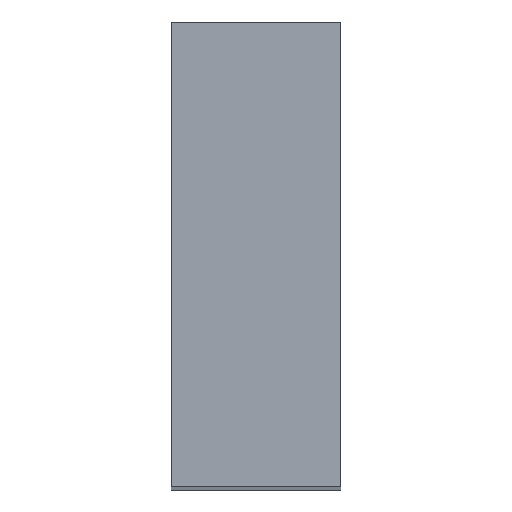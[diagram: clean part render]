
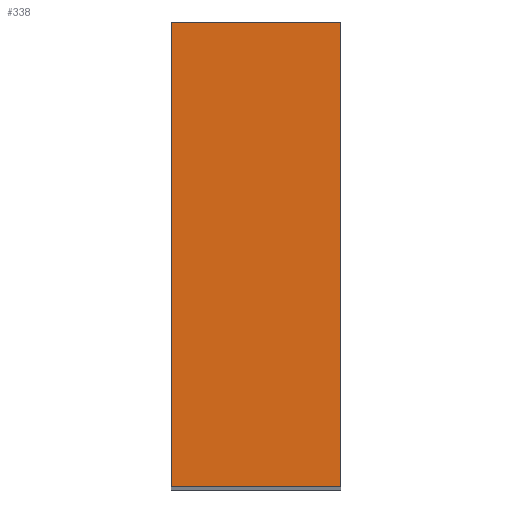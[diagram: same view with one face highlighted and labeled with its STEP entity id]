
A CAD part, top view. The second image highlights one B-rep face of the part: STEP entity #338.
In plain terms, the highlighted planar face has unit normal (0, 0, 1).
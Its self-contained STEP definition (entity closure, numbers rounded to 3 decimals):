
#24 = VERTEX_POINT('',#25);
#25 = CARTESIAN_POINT('',(-342.544,-153.369,142.));
#32 = PLANE('',#33);
#33 = AXIS2_PLACEMENT_3D('',#34,#35,#36);
#34 = CARTESIAN_POINT('',(-342.544,-153.369,54.));
#35 = DIRECTION('',(1.,0.,-0.));
#36 = DIRECTION('',(0.,0.,1.));
#44 = PLANE('',#45);
#45 = AXIS2_PLACEMENT_3D('',#46,#47,#48);
#46 = CARTESIAN_POINT('',(-342.544,-153.369,54.));
#47 = DIRECTION('',(-0.,1.,0.));
#48 = DIRECTION('',(0.,0.,1.));
#85 = VERTEX_POINT('',#86);
#86 = CARTESIAN_POINT('',(-342.544,-131.369,142.));
#100 = PLANE('',#101);
#101 = AXIS2_PLACEMENT_3D('',#102,#103,#104);
#102 = CARTESIAN_POINT('',(-342.544,-131.369,54.));
#103 = DIRECTION('',(-0.,1.,0.));
#104 = DIRECTION('',(0.,0.,1.));
#112 = EDGE_CURVE('',#24,#85,#113,.T.);
#113 = SURFACE_CURVE('',#114,(#118,#125),.PCURVE_S1.);
#114 = LINE('',#115,#116);
#115 = CARTESIAN_POINT('',(-342.544,-153.369,142.));
#116 = VECTOR('',#117,1.);
#117 = DIRECTION('',(-0.,1.,0.));
#118 = PCURVE('',#32,#119);
#119 = DEFINITIONAL_REPRESENTATION('',(#120),#124);
#120 = LINE('',#121,#122);
#121 = CARTESIAN_POINT('',(88.,0.));
#122 = VECTOR('',#123,1.);
#123 = DIRECTION('',(0.,-1.));
#124 = ( GEOMETRIC_REPRESENTATION_CONTEXT(2) 
PARAMETRIC_REPRESENTATION_CONTEXT() REPRESENTATION_CONTEXT('2D SPACE',''
  ) );
#125 = PCURVE('',#126,#131);
#126 = PLANE('',#127);
#127 = AXIS2_PLACEMENT_3D('',#128,#129,#130);
#128 = CARTESIAN_POINT('',(-342.544,-153.369,142.));
#129 = DIRECTION('',(0.,0.,1.));
#130 = DIRECTION('',(1.,0.,-0.));
#131 = DEFINITIONAL_REPRESENTATION('',(#132),#136);
#132 = LINE('',#133,#134);
#133 = CARTESIAN_POINT('',(0.,0.));
#134 = VECTOR('',#135,1.);
#135 = DIRECTION('',(0.,1.));
#136 = ( GEOMETRIC_REPRESENTATION_CONTEXT(2) 
PARAMETRIC_REPRESENTATION_CONTEXT() REPRESENTATION_CONTEXT('2D SPACE',''
  ) );
#144 = VERTEX_POINT('',#145);
#145 = CARTESIAN_POINT('',(-334.544,-153.369,142.));
#152 = PLANE('',#153);
#153 = AXIS2_PLACEMENT_3D('',#154,#155,#156);
#154 = CARTESIAN_POINT('',(-334.544,-153.369,54.));
#155 = DIRECTION('',(1.,0.,-0.));
#156 = DIRECTION('',(0.,0.,1.));
#195 = VERTEX_POINT('',#196);
#196 = CARTESIAN_POINT('',(-334.544,-131.369,142.));
#217 = EDGE_CURVE('',#144,#195,#218,.T.);
#218 = SURFACE_CURVE('',#219,(#223,#230),.PCURVE_S1.);
#219 = LINE('',#220,#221);
#220 = CARTESIAN_POINT('',(-334.544,-153.369,142.));
#221 = VECTOR('',#222,1.);
#222 = DIRECTION('',(-0.,1.,0.));
#223 = PCURVE('',#152,#224);
#224 = DEFINITIONAL_REPRESENTATION('',(#225),#229);
#225 = LINE('',#226,#227);
#226 = CARTESIAN_POINT('',(88.,0.));
#227 = VECTOR('',#228,1.);
#228 = DIRECTION('',(0.,-1.));
#229 = ( GEOMETRIC_REPRESENTATION_CONTEXT(2) 
PARAMETRIC_REPRESENTATION_CONTEXT() REPRESENTATION_CONTEXT('2D SPACE',''
  ) );
#230 = PCURVE('',#126,#231);
#231 = DEFINITIONAL_REPRESENTATION('',(#232),#236);
#232 = LINE('',#233,#234);
#233 = CARTESIAN_POINT('',(8.,0.));
#234 = VECTOR('',#235,1.);
#235 = DIRECTION('',(0.,1.));
#236 = ( GEOMETRIC_REPRESENTATION_CONTEXT(2) 
PARAMETRIC_REPRESENTATION_CONTEXT() REPRESENTATION_CONTEXT('2D SPACE',''
  ) );
#263 = EDGE_CURVE('',#24,#144,#264,.T.);
#264 = SURFACE_CURVE('',#265,(#269,#276),.PCURVE_S1.);
#265 = LINE('',#266,#267);
#266 = CARTESIAN_POINT('',(-342.544,-153.369,142.));
#267 = VECTOR('',#268,1.);
#268 = DIRECTION('',(1.,0.,-0.));
#269 = PCURVE('',#44,#270);
#270 = DEFINITIONAL_REPRESENTATION('',(#271),#275);
#271 = LINE('',#272,#273);
#272 = CARTESIAN_POINT('',(88.,0.));
#273 = VECTOR('',#274,1.);
#274 = DIRECTION('',(0.,1.));
#275 = ( GEOMETRIC_REPRESENTATION_CONTEXT(2) 
PARAMETRIC_REPRESENTATION_CONTEXT() REPRESENTATION_CONTEXT('2D SPACE',''
  ) );
#276 = PCURVE('',#126,#277);
#277 = DEFINITIONAL_REPRESENTATION('',(#278),#282);
#278 = LINE('',#279,#280);
#279 = CARTESIAN_POINT('',(0.,0.));
#280 = VECTOR('',#281,1.);
#281 = DIRECTION('',(1.,0.));
#282 = ( GEOMETRIC_REPRESENTATION_CONTEXT(2) 
PARAMETRIC_REPRESENTATION_CONTEXT() REPRESENTATION_CONTEXT('2D SPACE',''
  ) );
#310 = EDGE_CURVE('',#85,#195,#311,.T.);
#311 = SURFACE_CURVE('',#312,(#316,#323),.PCURVE_S1.);
#312 = LINE('',#313,#314);
#313 = CARTESIAN_POINT('',(-342.544,-131.369,142.));
#314 = VECTOR('',#315,1.);
#315 = DIRECTION('',(1.,0.,-0.));
#316 = PCURVE('',#100,#317);
#317 = DEFINITIONAL_REPRESENTATION('',(#318),#322);
#318 = LINE('',#319,#320);
#319 = CARTESIAN_POINT('',(88.,0.));
#320 = VECTOR('',#321,1.);
#321 = DIRECTION('',(0.,1.));
#322 = ( GEOMETRIC_REPRESENTATION_CONTEXT(2) 
PARAMETRIC_REPRESENTATION_CONTEXT() REPRESENTATION_CONTEXT('2D SPACE',''
  ) );
#323 = PCURVE('',#126,#324);
#324 = DEFINITIONAL_REPRESENTATION('',(#325),#329);
#325 = LINE('',#326,#327);
#326 = CARTESIAN_POINT('',(0.,22.));
#327 = VECTOR('',#328,1.);
#328 = DIRECTION('',(1.,0.));
#329 = ( GEOMETRIC_REPRESENTATION_CONTEXT(2) 
PARAMETRIC_REPRESENTATION_CONTEXT() REPRESENTATION_CONTEXT('2D SPACE',''
  ) );
#338 = ADVANCED_FACE('',(#339),#126,.T.);
#339 = FACE_BOUND('',#340,.T.);
#340 = EDGE_LOOP('',(#341,#342,#343,#344));
#341 = ORIENTED_EDGE('',*,*,#112,.F.);
#342 = ORIENTED_EDGE('',*,*,#263,.T.);
#343 = ORIENTED_EDGE('',*,*,#217,.T.);
#344 = ORIENTED_EDGE('',*,*,#310,.F.);
